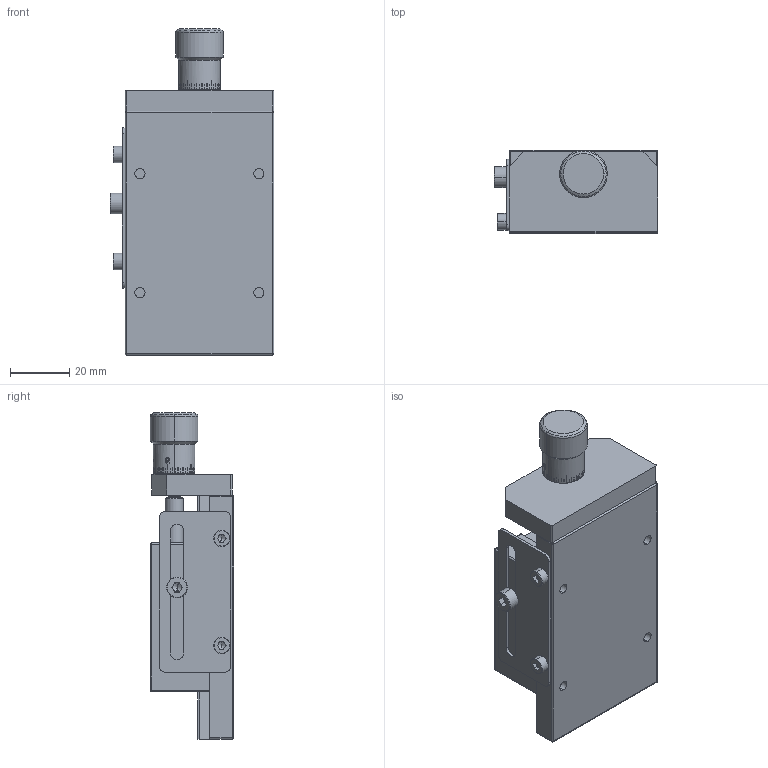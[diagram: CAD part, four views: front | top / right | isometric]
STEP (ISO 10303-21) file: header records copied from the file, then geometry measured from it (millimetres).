
FILE_DESCRIPTION (( 'STEP AP203' ), '1' );
FILE_NAME ('MC1G-535(«¬¿ý).STEP', '2014-11-11T03:41:23', ( '123' ), ( '' ), 'SwSTEP 2.0', 'SolidWorks 2014', '' );
FILE_SCHEMA (( 'CONFIG_CONTROL_DESIGN' ));
Products named in the file (3): Group1^MC1G-535(型錄); Group2^MC1G-535(型錄); MC1G-535(型錄)
Assembly tree (2 placements, depth 2):
  MC1G-535(型錄)
    Group1^MC1G-535(型錄)
    Group2^MC1G-535(型錄)
Bounding box: 55 x 28 x 109.7 mm (x, y, z)
Volume: 99672.6 mm3; surface area: 28700 mm2
Topology: 2 solids, 2 shells, 1427 faces, 3830 edges, 2487 vertices
Faces by surface type: plane 972, bspline 294, cylinder 129, cone 14, torus 10, sphere 8
Entity records: 64235 total; most frequent: CARTESIAN_POINT 29957, ORIENTED_EDGE 7632, DIRECTION 5948, EDGE_CURVE 3816, VECTOR 2784, LINE 2784, VERTEX_POINT 2487, AXIS2_PLACEMENT_3D 1582
